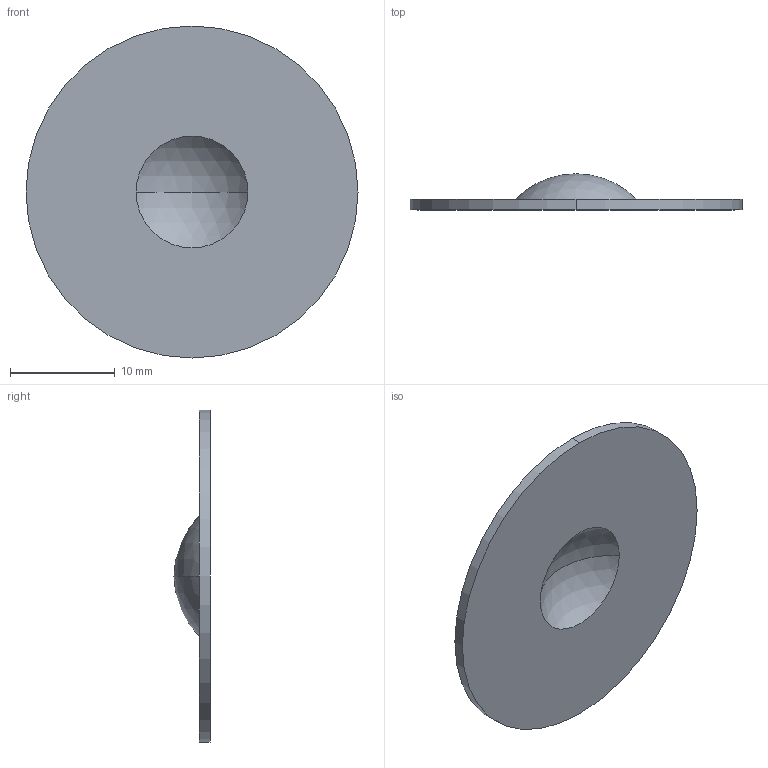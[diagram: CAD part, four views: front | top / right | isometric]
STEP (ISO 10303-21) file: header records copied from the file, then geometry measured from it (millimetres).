
FILE_DESCRIPTION (( 'STEP AP214' ), '1' );
FILE_NAME ('1614613-10.STEP', '2024-11-13T15:16:35', ( '' ), ( '' ), 'SwSTEP 2.0', 'SolidWorks 2024', '' );
FILE_SCHEMA (( 'AUTOMOTIVE_DESIGN' ));
Length unit declared in the file: inch
Products named in the file (1): 1614613-10
Bounding box: 31.75 x 3.45 x 31.75 mm (x, y, z)
Volume: 823.4 mm3; surface area: 1722.2 mm2
Topology: 1 solids, 1 shells, 8 faces, 14 edges, 10 vertices
Faces by surface type: sphere 4, cylinder 2, plane 2
Entity records: 233 total; most frequent: DIRECTION 44, CARTESIAN_POINT 33, ORIENTED_EDGE 28, AXIS2_PLACEMENT_3D 21, EDGE_CURVE 14, CIRCLE 12, EDGE_LOOP 10, VERTEX_POINT 10
